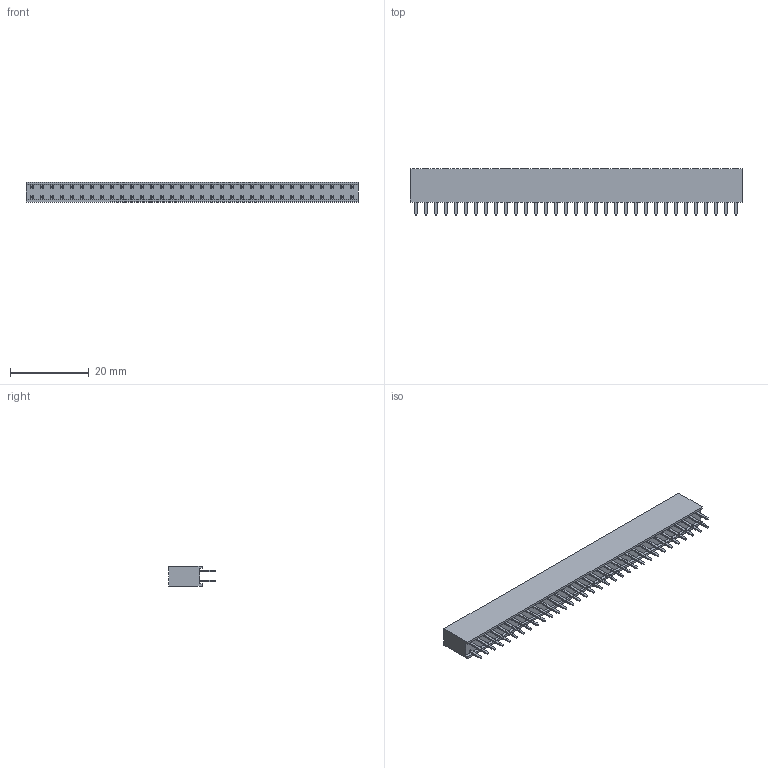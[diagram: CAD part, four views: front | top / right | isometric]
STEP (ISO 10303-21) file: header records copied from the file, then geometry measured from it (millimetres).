
FILE_DESCRIPTION (( 'STEP AP214' ), '1' );
FILE_NAME ('PPTC332LFBN-RC.STEP', '2022-06-27T17:49:12', ( '' ), ( '' ), 'SwSTEP 2.0', 'SolidWorks 2017', '' );
FILE_SCHEMA (( 'AUTOMOTIVE_DESIGN' ));
Length unit declared in the file: inch
Products named in the file (3): 2 row tin body_33; PPTC332LFBN-RC; 2 row tin pins
Assembly tree (34 placements, depth 2):
  PPTC332LFBN-RC
    2 row tin body_33
    2 row tin pins  x33
Bounding box: 84.33 x 11.91 x 5.08 mm (x, y, z)
Volume: 3361.8 mm3; surface area: 5192.5 mm2
Topology: 133 solids, 133 shells, 1924 faces, 4710 edges, 3052 vertices
Faces by surface type: plane 1528, cylinder 396
Entity records: 17239 total; most frequent: CARTESIAN_POINT 2939, ORIENTED_EDGE 2892, DIRECTION 2704, EDGE_CURVE 1446, VECTOR 1422, LINE 1422, VERTEX_POINT 876, EDGE_LOOP 712
